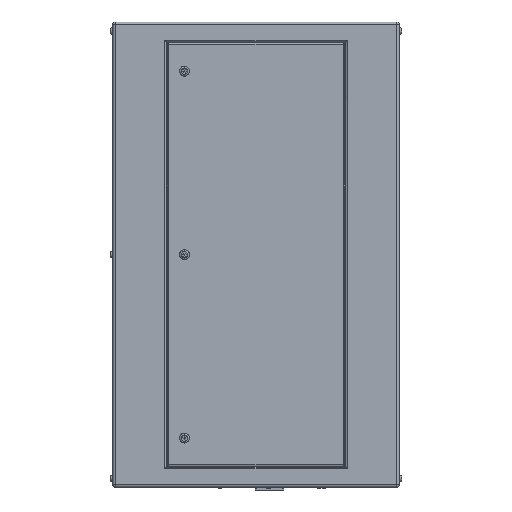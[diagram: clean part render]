
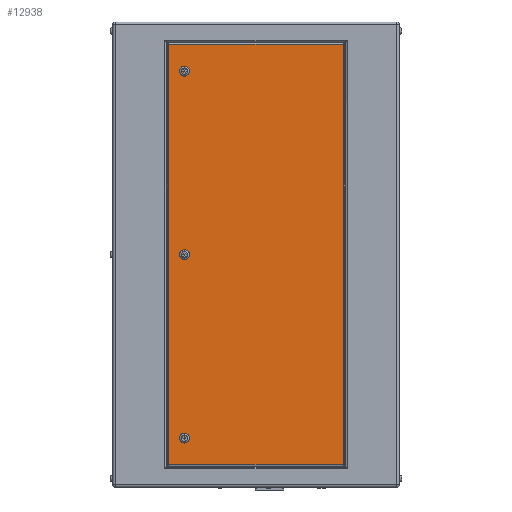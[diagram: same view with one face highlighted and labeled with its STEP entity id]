
A CAD part, left-side view. The second image highlights one B-rep face of the part: STEP entity #12938.
In plain terms, the highlighted planar face has unit normal (-1, 0, 0).
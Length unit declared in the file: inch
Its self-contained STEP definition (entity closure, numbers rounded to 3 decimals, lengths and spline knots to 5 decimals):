
#111 = DIRECTION ( 'NONE',  ( 1., 0., 0. ) ) ;
#257 = DIRECTION ( 'NONE',  ( 0., 1., 0. ) ) ;
#447 = VECTOR ( 'NONE', #257, 39.37008 ) ;
#1250 = VECTOR ( 'NONE', #7045, 39.37008 ) ;
#1805 = DIRECTION ( 'NONE',  ( 1., 0., 0. ) ) ;
#1875 = VERTEX_POINT ( 'NONE', #27811 ) ;
#1901 = DIRECTION ( 'NONE',  ( 0., 0., -1. ) ) ;
#2129 = DIRECTION ( 'NONE',  ( 0., 0., -1. ) ) ;
#3144 = DIRECTION ( 'NONE',  ( 0., 0., -1. ) ) ;
#3166 = PLANE ( 'NONE',  #22121 ) ;
#3372 = FACE_OUTER_BOUND ( 'NONE', #14958, .T. ) ;
#4148 = VERTEX_POINT ( 'NONE', #24946 ) ;
#4187 = CARTESIAN_POINT ( 'NONE',  ( -17., 16., -23.49 ) ) ;
#4406 = CARTESIAN_POINT ( 'NONE',  ( -17., 8., 19.95 ) ) ;
#4662 = VECTOR ( 'NONE', #30788, 39.37008 ) ;
#5056 = EDGE_CURVE ( 'NONE', #11991, #30985, #9459, .T. ) ;
#5152 = CARTESIAN_POINT ( 'NONE',  ( -17., 8., 20.5 ) ) ;
#5569 = CARTESIAN_POINT ( 'NONE',  ( -17., -9.74, -26. ) ) ;
#6531 = CARTESIAN_POINT ( 'NONE',  ( -17., 16., -26. ) ) ;
#7045 = DIRECTION ( 'NONE',  ( 0., 0., -1. ) ) ;
#7413 = LINE ( 'NONE', #15911, #1250 ) ;
#7822 = DIRECTION ( 'NONE',  ( 1., 0., 0. ) ) ;
#8043 = CARTESIAN_POINT ( 'NONE',  ( -17., 8., -21.05 ) ) ;
#8236 = CARTESIAN_POINT ( 'NONE',  ( -17., 8., 20.5 ) ) ;
#8306 = DIRECTION ( 'NONE',  ( 0., 0., -1. ) ) ;
#8564 = DIRECTION ( 'NONE',  ( 0., 0., -1. ) ) ;
#8867 = CARTESIAN_POINT ( 'NONE',  ( -17., 8., 21.05 ) ) ;
#8990 = AXIS2_PLACEMENT_3D ( 'NONE', #12148, #111, #21591 ) ;
#9068 = DIRECTION ( 'NONE',  ( 1., 0., 0. ) ) ;
#9279 = VECTOR ( 'NONE', #36079, 39.37008 ) ;
#9459 = CIRCLE ( 'NONE', #17012, 0.55 ) ;
#9704 = ORIENTED_EDGE ( 'NONE', *, *, #5056, .T. ) ;
#9847 = VERTEX_POINT ( 'NONE', #30831 ) ;
#10891 = EDGE_LOOP ( 'NONE', ( #24449, #36890 ) ) ;
#11917 = CARTESIAN_POINT ( 'NONE',  ( -17., 8., 0. ) ) ;
#11991 = VERTEX_POINT ( 'NONE', #8867 ) ;
#12139 = CIRCLE ( 'NONE', #32239, 0.55 ) ;
#12148 = CARTESIAN_POINT ( 'NONE',  ( -17., 8., -20.5 ) ) ;
#12257 = LINE ( 'NONE', #5569, #9279 ) ;
#12938 = ADVANCED_FACE ( 'NONE', ( #33490, #30346, #27357, #3372 ), #3166, .F. ) ;
#13468 = VERTEX_POINT ( 'NONE', #16559 ) ;
#14699 = ORIENTED_EDGE ( 'NONE', *, *, #18338, .T. ) ;
#14958 = EDGE_LOOP ( 'NONE', ( #30998, #24780, #29258, #28582 ) ) ;
#15911 = CARTESIAN_POINT ( 'NONE',  ( -17., 9.74, -26. ) ) ;
#16199 = EDGE_CURVE ( 'NONE', #1875, #9847, #7413, .T. ) ;
#16559 = CARTESIAN_POINT ( 'NONE',  ( -17., 8., -19.95 ) ) ;
#17012 = AXIS2_PLACEMENT_3D ( 'NONE', #8236, #38907, #2129 ) ;
#18338 = EDGE_CURVE ( 'NONE', #13468, #31829, #34152, .T. ) ;
#18981 = EDGE_CURVE ( 'NONE', #31829, #13468, #19034, .T. ) ;
#19034 = CIRCLE ( 'NONE', #28453, 0.55 ) ;
#19617 = EDGE_CURVE ( 'NONE', #33824, #30914, #12139, .T. ) ;
#20081 = EDGE_LOOP ( 'NONE', ( #38472, #9704 ) ) ;
#20591 = EDGE_CURVE ( 'NONE', #9847, #25428, #28387, .T. ) ;
#20783 = EDGE_LOOP ( 'NONE', ( #36483, #14699 ) ) ;
#21240 = CARTESIAN_POINT ( 'NONE',  ( -17., 8., -20.5 ) ) ;
#21591 = DIRECTION ( 'NONE',  ( 0., 0., -1. ) ) ;
#22121 = AXIS2_PLACEMENT_3D ( 'NONE', #6531, #9068, #26755 ) ;
#23424 = CARTESIAN_POINT ( 'NONE',  ( -17., -9.74, -23.49 ) ) ;
#23943 = CIRCLE ( 'NONE', #34661, 0.55 ) ;
#24449 = ORIENTED_EDGE ( 'NONE', *, *, #27882, .T. ) ;
#24780 = ORIENTED_EDGE ( 'NONE', *, *, #25993, .T. ) ;
#24946 = CARTESIAN_POINT ( 'NONE',  ( -17., -9.74, 23.49 ) ) ;
#25428 = VERTEX_POINT ( 'NONE', #23424 ) ;
#25993 = EDGE_CURVE ( 'NONE', #25428, #4148, #12257, .T. ) ;
#26755 = DIRECTION ( 'NONE',  ( 0., 0., -1. ) ) ;
#27164 = CARTESIAN_POINT ( 'NONE',  ( -17., 8., 0.55 ) ) ;
#27219 = CARTESIAN_POINT ( 'NONE',  ( -17., 16., 23.49 ) ) ;
#27357 = FACE_BOUND ( 'NONE', #20081, .T. ) ;
#27811 = CARTESIAN_POINT ( 'NONE',  ( -17., 9.74, 23.49 ) ) ;
#27882 = EDGE_CURVE ( 'NONE', #30914, #33824, #23943, .T. ) ;
#28144 = EDGE_CURVE ( 'NONE', #30985, #11991, #33449, .T. ) ;
#28387 = LINE ( 'NONE', #4187, #4662 ) ;
#28453 = AXIS2_PLACEMENT_3D ( 'NONE', #21240, #35833, #3144 ) ;
#28582 = ORIENTED_EDGE ( 'NONE', *, *, #16199, .T. ) ;
#28659 = CARTESIAN_POINT ( 'NONE',  ( -17., 8., 0. ) ) ;
#29258 = ORIENTED_EDGE ( 'NONE', *, *, #34881, .T. ) ;
#30346 = FACE_BOUND ( 'NONE', #10891, .T. ) ;
#30788 = DIRECTION ( 'NONE',  ( 0., -1., 0. ) ) ;
#30831 = CARTESIAN_POINT ( 'NONE',  ( -17., 9.74, -23.49 ) ) ;
#30914 = VERTEX_POINT ( 'NONE', #35090 ) ;
#30985 = VERTEX_POINT ( 'NONE', #4406 ) ;
#30998 = ORIENTED_EDGE ( 'NONE', *, *, #20591, .T. ) ;
#31829 = VERTEX_POINT ( 'NONE', #8043 ) ;
#32239 = AXIS2_PLACEMENT_3D ( 'NONE', #11917, #32382, #8564 ) ;
#32382 = DIRECTION ( 'NONE',  ( 1., 0., 0. ) ) ;
#32542 = LINE ( 'NONE', #27219, #447 ) ;
#33449 = CIRCLE ( 'NONE', #38455, 0.55 ) ;
#33490 = FACE_BOUND ( 'NONE', #20783, .T. ) ;
#33824 = VERTEX_POINT ( 'NONE', #27164 ) ;
#34152 = CIRCLE ( 'NONE', #8990, 0.55 ) ;
#34661 = AXIS2_PLACEMENT_3D ( 'NONE', #28659, #7822, #1901 ) ;
#34881 = EDGE_CURVE ( 'NONE', #4148, #1875, #32542, .T. ) ;
#35090 = CARTESIAN_POINT ( 'NONE',  ( -17., 8., -0.55 ) ) ;
#35833 = DIRECTION ( 'NONE',  ( 1., 0., 0. ) ) ;
#36079 = DIRECTION ( 'NONE',  ( 0., 0., 1. ) ) ;
#36483 = ORIENTED_EDGE ( 'NONE', *, *, #18981, .T. ) ;
#36890 = ORIENTED_EDGE ( 'NONE', *, *, #19617, .T. ) ;
#38455 = AXIS2_PLACEMENT_3D ( 'NONE', #5152, #1805, #8306 ) ;
#38472 = ORIENTED_EDGE ( 'NONE', *, *, #28144, .T. ) ;
#38907 = DIRECTION ( 'NONE',  ( 1., 0., 0. ) ) ;
